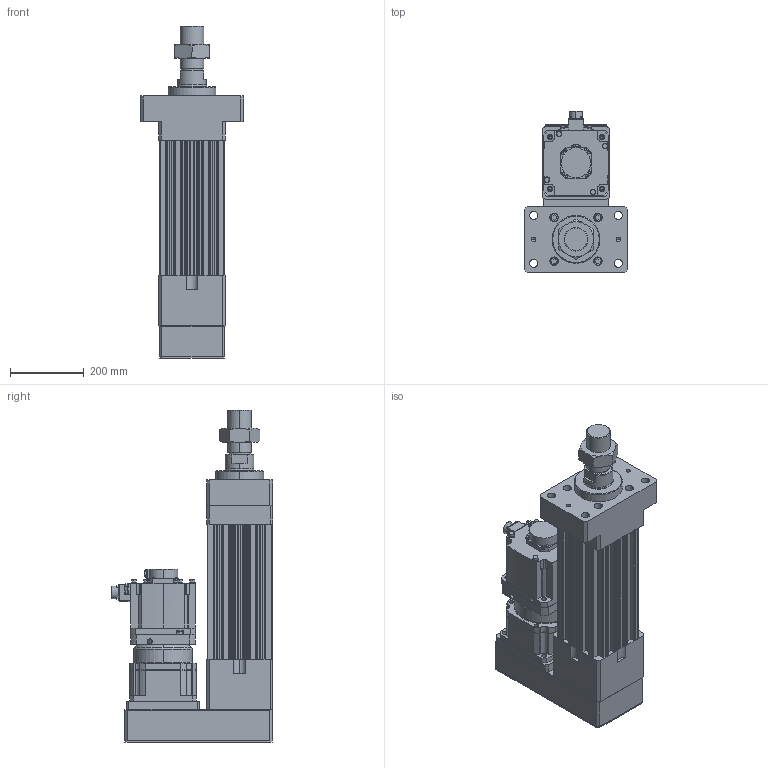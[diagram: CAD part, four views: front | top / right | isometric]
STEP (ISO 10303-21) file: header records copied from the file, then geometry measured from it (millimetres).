
FILE_DESCRIPTION (( 'STEP AP203' ), '1' );
FILE_NAME ('HES180HS-P050-W050G00-M-FMA.STEP', '2023-02-01T07:40:18', ( 'tms' ), ( '' ), 'SwSTEP 2.0', 'SolidWorks 2013', '' );
FILE_SCHEMA (( 'CONFIG_CONTROL_DESIGN' ));
Length unit declared in the file: millimetre
Products named in the file (9): HES180-P050-G180-FMA; P1301600001; HG-SR502; HES180HS-P050-W050G00-M-FMA; M64X2.0P; AB1801; HES180 ROD M ST050; AB180-003[HG-SR702B]; P0403600401
Assembly tree (8 placements, depth 3):
  HES180HS-P050-W050G00-M-FMA
    HES180-P050-G180-FMA
    HES180 ROD M ST050
    M64X2.0P
    AB180-003[HG-SR702B]
      AB1801
      P1301600001
      P0403600401
    HG-SR502
Bounding box: 280 x 438.85 x 902 mm (x, y, z)
Volume: 23960962.6 mm3; surface area: 1890196.2 mm2
Topology: 4 solids, 19 shells, 1431 faces, 3715 edges, 2410 vertices
Faces by surface type: cylinder 663, plane 555, cone 146, bspline 63, torus 4
Entity records: 52578 total; most frequent: CARTESIAN_POINT 15982, DIRECTION 7693, ORIENTED_EDGE 7330, EDGE_CURVE 3689, AXIS2_PLACEMENT_3D 2901, VERTEX_POINT 2410, VECTOR 1891, LINE 1891
